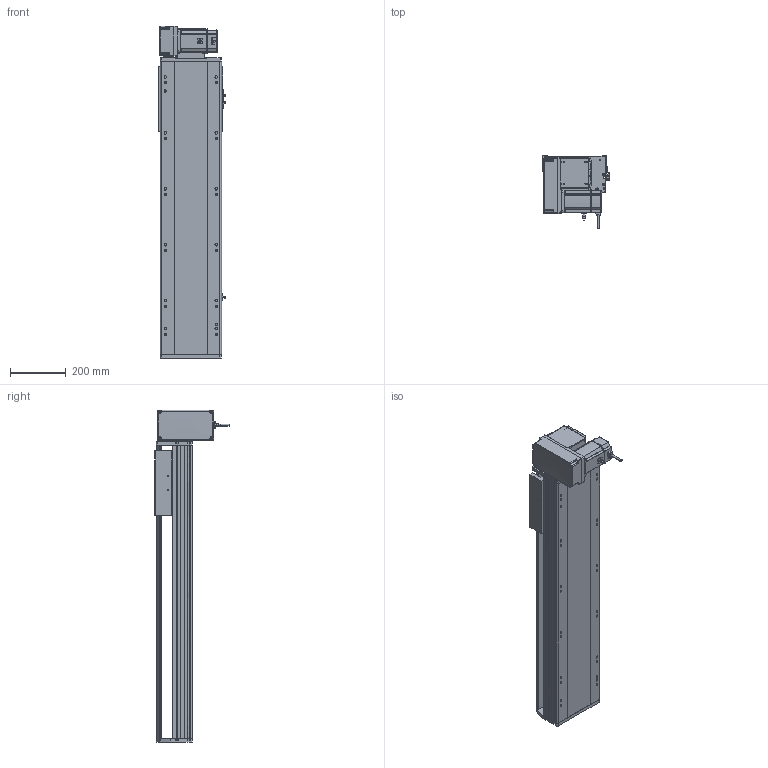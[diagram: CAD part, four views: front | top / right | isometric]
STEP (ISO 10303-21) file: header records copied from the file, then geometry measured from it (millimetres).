
FILE_DESCRIPTION (( 'STEP AP214' ), '1' );
FILE_NAME ('RTB22S-XX-700-LM-M75-C4.STEP', '2025-12-12T03:48:03', ( '' ), ( '' ), 'SwSTEP 2.0', 'SolidWorks 2018', '' );
FILE_SCHEMA (( 'AUTOMOTIVE_DESIGN' ));
Length unit declared in the file: millimetre
Products named in the file (14): RTB22S-GY-008-M75--萇儂啣^RMP22S-LM-々湍釱蚾饜_RTB22S-XX-XX-LM-M75-C4; RTB22S-GY-017P^RMP22S-LM-々湍釱蚾饜_RTB22S-XX-XX-LM-M75-C4; RTB22S-GY-007奻裔^RTB22S-XX-XX-LM-M75-C4; 750W萇儂^RTB22S-XX-XX-LM-M75-C4; RTB22S-GY-001耜裔^RTB22S-XX-XX-LM-M75-C4; RMP22S-LM-々湍釱蚾饜^RTB22S-XX-XX-LM-M75-C4; RTB22S-L-011菁釱^RTB22S-XX-XX-LM-M75-C4; RTB22S-GY-014--々湍釱^RMP22S-LM-々湍釱蚾饜_RTB22S-XX-XX-LM-M75-C4; RTB22S-L-004賑釱^RTB22S-XX-XX-LM-M75-C4; RTB22S-GY-005P^RMP22S-LM-々湍釱蚾饜_RTB22S-XX-XX-LM-M75-C4; OMRON EE-SX672 传感器^RTB22S-XX-XX-LM-M75-C4; RTH22-GY-013外置感应片^RTB22S-XX-XX-LM-M75-C4; RTB22S-GY-018P^RMP22S-LM-々湍釱蚾饜_RTB22S-XX-XX-LM-M75-C4; RTB22S-XX-700-LM-M75-C4
Assembly tree (16 placements, depth 3):
  RTB22S-XX-700-LM-M75-C4
    RTB22S-L-011菁釱^RTB22S-XX-XX-LM-M75-C4
    RTB22S-GY-001耜裔^RTB22S-XX-XX-LM-M75-C4
    750W萇儂^RTB22S-XX-XX-LM-M75-C4
    RTB22S-GY-007奻裔^RTB22S-XX-XX-LM-M75-C4
    RTB22S-L-004賑釱^RTB22S-XX-XX-LM-M75-C4
    RTH22-GY-013外置感应片^RTB22S-XX-XX-LM-M75-C4
    OMRON EE-SX672 传感器^RTB22S-XX-XX-LM-M75-C4  x3
    RMP22S-LM-々湍釱蚾饜^RTB22S-XX-XX-LM-M75-C4
      RTB22S-GY-014--々湍釱^RMP22S-LM-々湍釱蚾饜_RTB22S-XX-XX-LM-M75-C4
      RTB22S-GY-017P^RMP22S-LM-々湍釱蚾饜_RTB22S-XX-XX-LM-M75-C4  x2
      RTB22S-GY-005P^RMP22S-LM-々湍釱蚾饜_RTB22S-XX-XX-LM-M75-C4
      RTB22S-GY-008-M75--萇儂啣^RMP22S-LM-々湍釱蚾饜_RTB22S-XX-XX-LM-M75-C4
      RTB22S-GY-018P^RMP22S-LM-々湍釱蚾饜_RTB22S-XX-XX-LM-M75-C4
Bounding box: 238.5 x 264.7 x 1187.5 mm (x, y, z)
Volume: 17792986.9 mm3; surface area: 1867191.3 mm2
Topology: 15 solids, 15 shells, 1947 faces, 5286 edges, 3392 vertices
Faces by surface type: plane 911, cylinder 598, bspline 296, cone 130, sphere 8, torus 4
Entity records: 51452 total; most frequent: CARTESIAN_POINT 14876, ORIENTED_EDGE 7376, DIRECTION 7062, EDGE_CURVE 3688, AXIS2_PLACEMENT_3D 2478, VERTEX_POINT 2396, LINE 2106, VECTOR 2106
